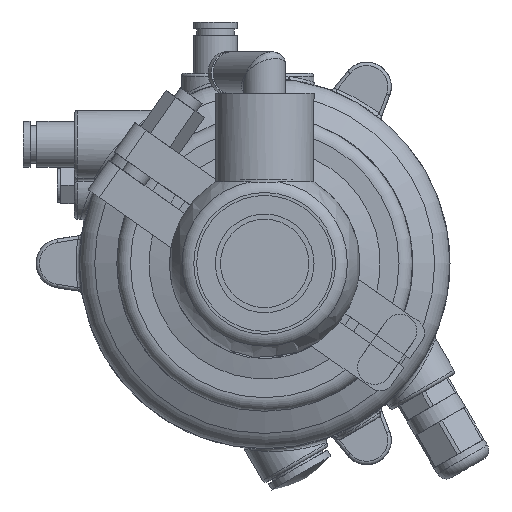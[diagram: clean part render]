
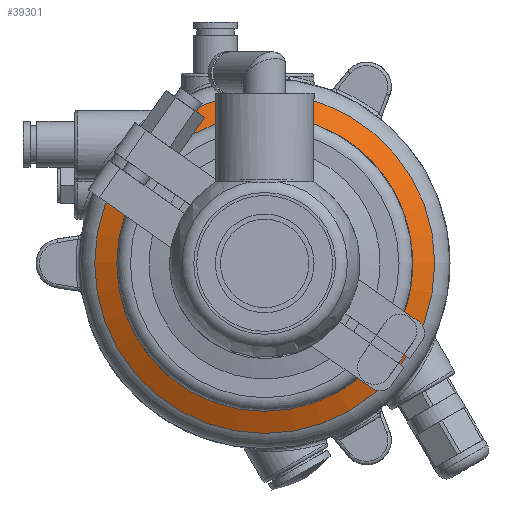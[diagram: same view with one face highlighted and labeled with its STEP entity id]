
A CAD part, front view. The second image highlights one B-rep face of the part: STEP entity #39301.
In plain terms, the highlighted conical face has half-angle 64 degrees and reference radius 36 mm.
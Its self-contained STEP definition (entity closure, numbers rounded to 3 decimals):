
#189 = EDGE_CURVE ( 'NONE', #7697, #7697, #47948, .T. ) ;
#729 = CARTESIAN_POINT ( 'NONE',  ( 0., 0., 0. ) ) ;
#1227 = ORIENTED_EDGE ( 'NONE', *, *, #47655, .T. ) ;
#7697 = VERTEX_POINT ( 'NONE', #44091 ) ;
#14085 = CARTESIAN_POINT ( 'NONE',  ( 0., 6.832, -50.007 ) ) ;
#14102 = DIRECTION ( 'NONE',  ( 0., 0., 1. ) ) ;
#14152 = EDGE_LOOP ( 'NONE', ( #32824 ) ) ;
#16080 = AXIS2_PLACEMENT_3D ( 'NONE', #47616, #33992, #46453 ) ;
#18286 = AXIS2_PLACEMENT_3D ( 'NONE', #729, #24087, #14102 ) ;
#23781 = FACE_OUTER_BOUND ( 'NONE', #49035, .T. ) ;
#23922 = CARTESIAN_POINT ( 'NONE',  ( 0., 0., 0. ) ) ;
#24087 = DIRECTION ( 'NONE',  ( 0., 1., 0. ) ) ;
#24743 = AXIS2_PLACEMENT_3D ( 'NONE', #23922, #37873, #57279 ) ;
#28684 = CIRCLE ( 'NONE', #16080, 50.007 ) ;
#32824 = ORIENTED_EDGE ( 'NONE', *, *, #189, .F. ) ;
#33992 = DIRECTION ( 'NONE',  ( 0., -1., 0. ) ) ;
#37873 = DIRECTION ( 'NONE',  ( 0., -1., 0. ) ) ;
#39301 = ADVANCED_FACE ( 'NONE', ( #23781, #56263 ), #55142, .T. ) ;
#44091 = CARTESIAN_POINT ( 'NONE',  ( 0., 0., -36. ) ) ;
#46453 = DIRECTION ( 'NONE',  ( 0., 0., -1. ) ) ;
#47616 = CARTESIAN_POINT ( 'NONE',  ( 0., 6.832, 0. ) ) ;
#47655 = EDGE_CURVE ( 'NONE', #55656, #55656, #28684, .T. ) ;
#47948 = CIRCLE ( 'NONE', #24743, 36. ) ;
#49035 = EDGE_LOOP ( 'NONE', ( #1227 ) ) ;
#55142 = CONICAL_SURFACE ( 'NONE', #18286, 36., 1.117 ) ;
#55656 = VERTEX_POINT ( 'NONE', #14085 ) ;
#56263 = FACE_BOUND ( 'NONE', #14152, .T. ) ;
#57279 = DIRECTION ( 'NONE',  ( 0., 0., -1. ) ) ;
